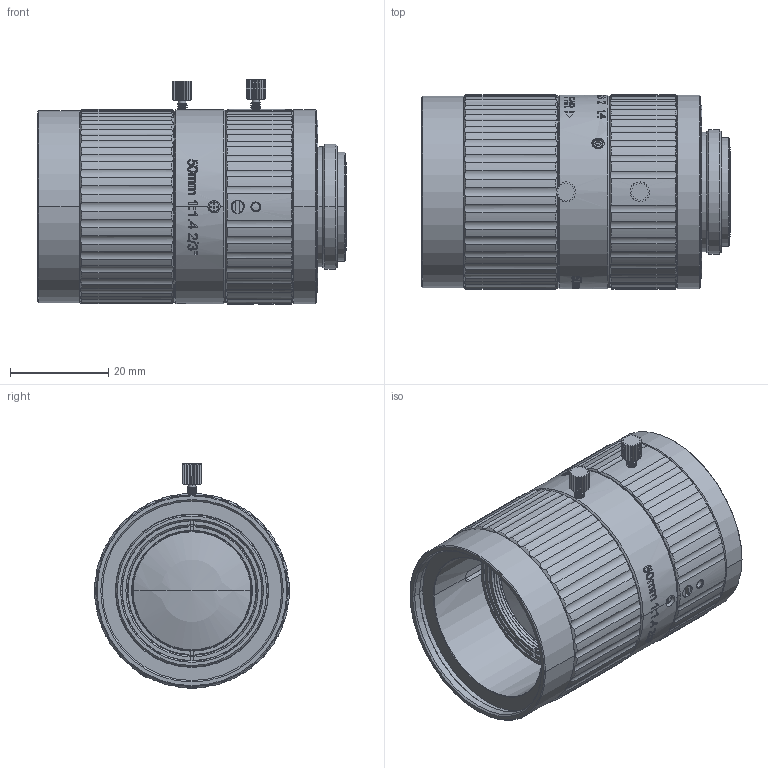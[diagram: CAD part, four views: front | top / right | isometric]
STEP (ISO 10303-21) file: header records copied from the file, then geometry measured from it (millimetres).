
FILE_DESCRIPTION((''),'2;1');
FILE_NAME('200_ASM_ASM','2020-07-02T',('Administrator'),(''),'PRO/ENGINEER BY PARAMETRIC TECHNOLOGY CORPORATION, 2010370','PRO/ENGINEER BY PARAMETRIC TECHNOLOGY CORPORATION, 2010370','');
FILE_SCHEMA(('CONFIG_CONTROL_DESIGN'));
Products named in the file (20): MSBR-55; MSBR-54; MSBR-53; MSBR-52; MSBR-48; MSBR-47; MSBR-46; MSBR-45; MSBR-44; MSBR-43; MSBR-42; MSBR-41; MSBR-34; MSBR-33; MSBR-29; MSBR-24; MSBR-23; MSBR-2; MSBR-1; 200_ASM_ASM
Assembly tree (19 placements, depth 2):
  200_ASM_ASM
    MSBR-55
    MSBR-54
    MSBR-53
    MSBR-52
    MSBR-48
    MSBR-47
    MSBR-46
    MSBR-45
    MSBR-44
    MSBR-43
    MSBR-42
    MSBR-41
    MSBR-34
    MSBR-33
    MSBR-29
    MSBR-24
    MSBR-23
    MSBR-2
    MSBR-1
Bounding box: 62.82 x 39.6 x 45.6 mm (x, y, z)
Volume: 38762.4 mm3; surface area: 44350.1 mm2
Topology: 19 solids, 19 shells, 1805 faces, 4853 edges, 3173 vertices
Faces by surface type: plane 607, cylinder 528, bspline 345, cone 313, sphere 6, extrusion 4, torus 2
Entity records: 75238 total; most frequent: CARTESIAN_POINT 32284, ORIENTED_EDGE 9682, DIRECTION 7718, EDGE_CURVE 4841, VERTEX_POINT 3173, AXIS2_PLACEMENT_3D 2937, EDGE_LOOP 1972, VECTOR 1844
